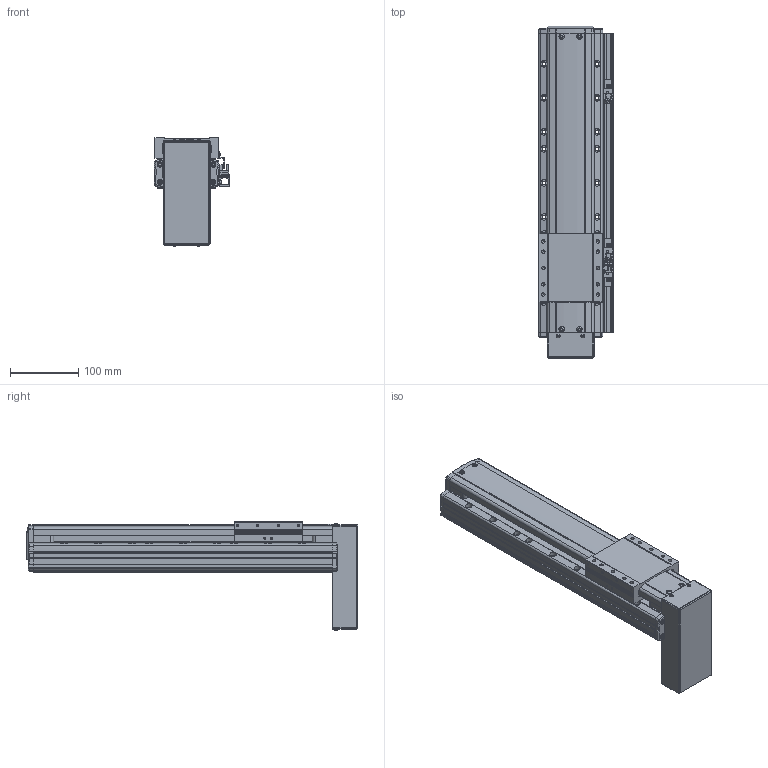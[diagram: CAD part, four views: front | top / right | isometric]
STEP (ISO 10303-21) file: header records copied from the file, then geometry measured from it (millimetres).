
FILE_DESCRIPTION(('STEP AP214'),'1');
FILE_NAME('Z:/Web/3D/PSA95/STP/PSA95-250 (3D)/PSA95ㅁㅁ-250PB+3SR.stp','2014-07-03T00:07:45',(' '),(' '),'Spatial InterOp 3D',' ',' ');
FILE_SCHEMA(('automotive_design'));
Length unit declared in the file: millimetre
Products named in the file (47): BASE; RRCV; 스크루 : Round - M4.0 x 10.0; 너트 : Square - M10.0 x 220.7419; RR1500; FRCV-090; 스크루 : Round - M4.0 x 6.0; SLBL-PA90; MTPL COVER; 스크루 : Round - M3.0 x 6.0; 1; 2; EE-SX674; SBK-SX674-352; M3.0 x 6.0; SRL-16x17-380L; SGD-PA95; 스크루 : Round - M3.0 x 8.0
Bounding box: 111 x 487.5 x 159.57 mm (x, y, z)
Volume: 2910127.6 mm3; surface area: 386853.8 mm2
Topology: 47 solids, 47 shells, 2514 faces, 6661 edges, 4279 vertices
Faces by surface type: plane 1483, cylinder 693, cone 230, sphere 70, bspline 24, torus 14
Entity records: 100542 total; most frequent: CARTESIAN_POINT 16496, DIRECTION 13340, ORIENTED_EDGE 13066, EDGE_CURVE 6533, LINE 4466, VECTOR 4466, AXIS2_PLACEMENT_3D 4437, VERTEX_POINT 4279
